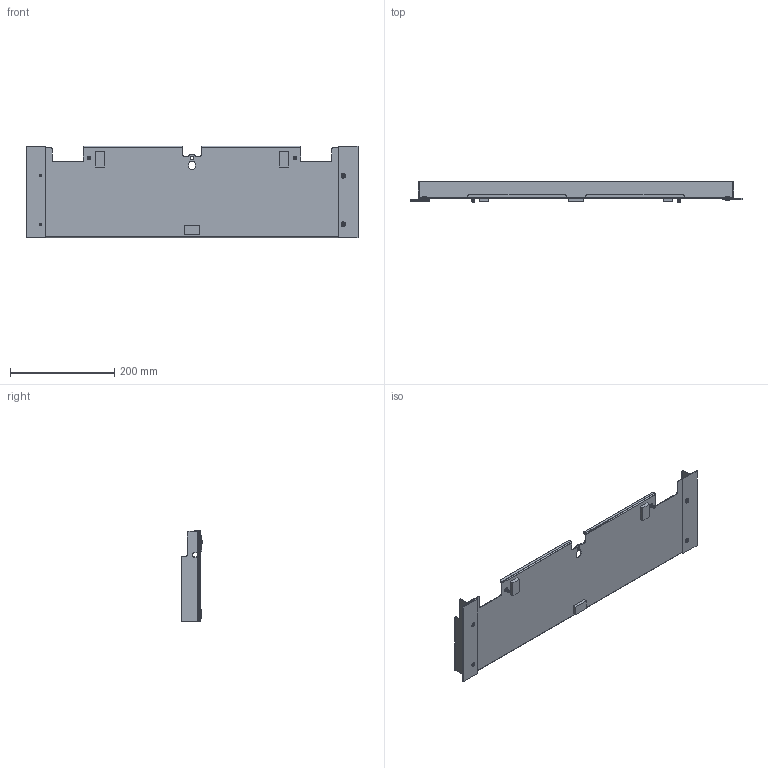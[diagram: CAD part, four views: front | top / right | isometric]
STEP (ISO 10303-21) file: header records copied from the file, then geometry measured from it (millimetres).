
FILE_DESCRIPTION((''),'2;1');
FILE_NAME('TORC_KIT_PILOT_221215_ASM','2023-04-04T16:25:00',('juliahuynh'),('Facebook, INC'),'CREO PARAMETRIC BY PTC INC, 2022024','CREO PARAMETRIC BY PTC INC, 2022024','');
FILE_SCHEMA(('AUTOMOTIVE_DESIGN { 1 0 10303 214 1 1 1 1 }'));
Length unit declared in the file: millimetre
Products named in the file (11): C31207_1_PILOT_221215; 406087_1_PILOT_221215; 478517__1_PILOT_221215; C31207_PNT_ASM_1_PILOT_221215_ASM; C27082_1_PILOT_221215; C31227_2_1_PILOT_221215; 405230_1_PILOT_221215; 220_611_40080_1_PILOT_221215; C31207_ASM_1_PILOT_221215_ASM; 405428__1_PILOT_221215; TORC_KIT_PILOT_221215_ASM
Assembly tree (20 placements, depth 4):
  TORC_KIT_PILOT_221215_ASM
    C31207_ASM_1_PILOT_221215_ASM
      C31207_PNT_ASM_1_PILOT_221215_ASM
        C31207_1_PILOT_221215
        406087_1_PILOT_221215
        478517__1_PILOT_221215
      C27082_1_PILOT_221215  x3
      C31227_2_1_PILOT_221215  x2
      405230_1_PILOT_221215  x4
      220_611_40080_1_PILOT_221215  x4
    405428__1_PILOT_221215  x2
Bounding box: 636 x 41.8 x 175.87 mm (x, y, z)
Volume: 201324.8 mm3; surface area: 568530.9 mm2
Topology: 16 solids, 17 shells, 574 faces, 1628 edges, 1090 vertices
Faces by surface type: cylinder 236, plane 224, torus 52, cone 40, bspline 22
Entity records: 19112 total; most frequent: CARTESIAN_POINT 5388, DIRECTION 2371, ORIENTED_EDGE 2038, EDGE_CURVE 1019, AXIS2_PLACEMENT_3D 888, VERTEX_POINT 659, VECTOR 564, LINE 564
